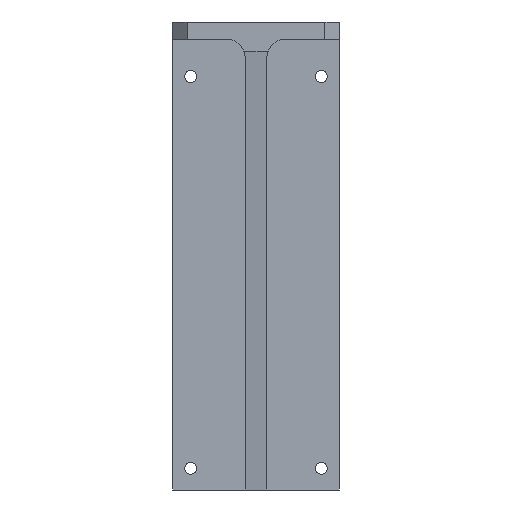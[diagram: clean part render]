
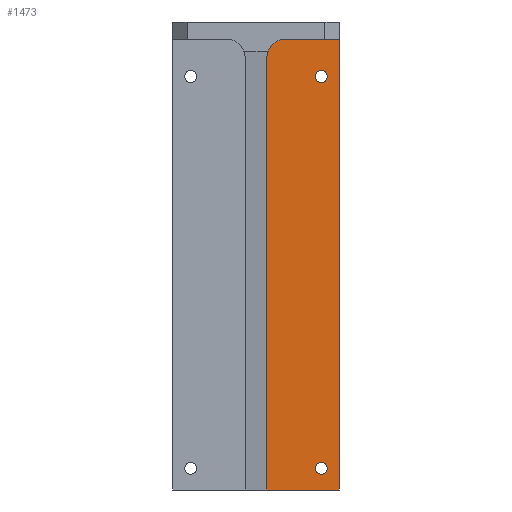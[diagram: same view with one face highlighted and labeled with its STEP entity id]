
A CAD part, left-side view. The second image highlights one B-rep face of the part: STEP entity #1473.
In plain terms, the highlighted planar face has unit normal (-1, 0, 0).
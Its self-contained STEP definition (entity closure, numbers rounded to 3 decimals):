
#47 = CARTESIAN_POINT ( 'NONE',  ( 16., 14.8, -4.7 ) ) ;
#57 = CARTESIAN_POINT ( 'NONE',  ( 16., 5., -121.35 ) ) ;
#72 = VERTEX_POINT ( 'NONE', #47 ) ;
#88 = VERTEX_POINT ( 'NONE', #57 ) ;
#91 = CARTESIAN_POINT ( 'NONE',  ( 16., 20., -4.7 ) ) ;
#124 = DIRECTION ( 'NONE',  ( 1., 0., 0. ) ) ;
#197 = AXIS2_PLACEMENT_3D ( 'NONE', #1772, #918, #1096 ) ;
#228 = DIRECTION ( 'NONE',  ( 0., 0., -1. ) ) ;
#237 = CARTESIAN_POINT ( 'NONE',  ( 16., 5., -123. ) ) ;
#247 = LINE ( 'NONE', #609, #1445 ) ;
#250 = DIRECTION ( 'NONE',  ( 0., 0., -1. ) ) ;
#255 = EDGE_LOOP ( 'NONE', ( #514, #516 ) ) ;
#262 = CARTESIAN_POINT ( 'NONE',  ( 16., 0., -129. ) ) ;
#305 = CARTESIAN_POINT ( 'NONE',  ( 16., 20., -129. ) ) ;
#309 = VERTEX_POINT ( 'NONE', #976 ) ;
#311 = PLANE ( 'NONE',  #707 ) ;
#318 = AXIS2_PLACEMENT_3D ( 'NONE', #1675, #1717, #250 ) ;
#338 = EDGE_CURVE ( 'NONE', #72, #854, #1666, .T. ) ;
#426 = VERTEX_POINT ( 'NONE', #1241 ) ;
#460 = VERTEX_POINT ( 'NONE', #1046 ) ;
#485 = EDGE_CURVE ( 'NONE', #460, #309, #1768, .T. ) ;
#486 = DIRECTION ( 'NONE',  ( 0., 0., -1. ) ) ;
#514 = ORIENTED_EDGE ( 'NONE', *, *, #1294, .T. ) ;
#516 = ORIENTED_EDGE ( 'NONE', *, *, #998, .T. ) ;
#562 = ORIENTED_EDGE ( 'NONE', *, *, #565, .T. ) ;
#565 = EDGE_CURVE ( 'NONE', #631, #426, #1794, .T. ) ;
#578 = ORIENTED_EDGE ( 'NONE', *, *, #1349, .T. ) ;
#593 = ORIENTED_EDGE ( 'NONE', *, *, #338, .F. ) ;
#600 = ORIENTED_EDGE ( 'NONE', *, *, #1668, .T. ) ;
#607 = CARTESIAN_POINT ( 'NONE',  ( 16., 5., -124.65 ) ) ;
#609 = CARTESIAN_POINT ( 'NONE',  ( 16., 20., -129. ) ) ;
#613 = ORIENTED_EDGE ( 'NONE', *, *, #485, .F. ) ;
#619 = ORIENTED_EDGE ( 'NONE', *, *, #1742, .T. ) ;
#628 = ORIENTED_EDGE ( 'NONE', *, *, #1750, .T. ) ;
#631 = VERTEX_POINT ( 'NONE', #1148 ) ;
#635 = DIRECTION ( 'NONE',  ( 0., -1., 0. ) ) ;
#707 = AXIS2_PLACEMENT_3D ( 'NONE', #305, #1684, #486 ) ;
#756 = AXIS2_PLACEMENT_3D ( 'NONE', #1144, #1286, #1224 ) ;
#847 = VERTEX_POINT ( 'NONE', #607 ) ;
#849 = VERTEX_POINT ( 'NONE', #1136 ) ;
#854 = VERTEX_POINT ( 'NONE', #1172 ) ;
#859 = EDGE_LOOP ( 'NONE', ( #562, #578 ) ) ;
#886 = FACE_OUTER_BOUND ( 'NONE', #978, .T. ) ;
#918 = DIRECTION ( 'NONE',  ( -1., 0., 0. ) ) ;
#976 = CARTESIAN_POINT ( 'NONE',  ( 16., 20., -9.9 ) ) ;
#978 = EDGE_LOOP ( 'NONE', ( #593, #600, #613, #619, #628 ) ) ;
#998 = EDGE_CURVE ( 'NONE', #88, #847, #1443, .T. ) ;
#1046 = CARTESIAN_POINT ( 'NONE',  ( 16., 20., -129. ) ) ;
#1096 = DIRECTION ( 'NONE',  ( 0., 0., -1. ) ) ;
#1120 = DIRECTION ( 'NONE',  ( 0., -1., 0. ) ) ;
#1124 = DIRECTION ( 'NONE',  ( 0., 0., -1. ) ) ;
#1129 = AXIS2_PLACEMENT_3D ( 'NONE', #1388, #1648, #1124 ) ;
#1136 = CARTESIAN_POINT ( 'NONE',  ( 16., 0., -129. ) ) ;
#1144 = CARTESIAN_POINT ( 'NONE',  ( 16., 5., -15. ) ) ;
#1148 = CARTESIAN_POINT ( 'NONE',  ( 16., 5., -16.65 ) ) ;
#1162 = CARTESIAN_POINT ( 'NONE',  ( 16., 20., -129. ) ) ;
#1172 = CARTESIAN_POINT ( 'NONE',  ( 16., 0., -4.7 ) ) ;
#1221 = LINE ( 'NONE', #262, #1358 ) ;
#1224 = DIRECTION ( 'NONE',  ( 0., 0., -1. ) ) ;
#1239 = DIRECTION ( 'NONE',  ( 0., 0., 1. ) ) ;
#1241 = CARTESIAN_POINT ( 'NONE',  ( 16., 5., -13.35 ) ) ;
#1286 = DIRECTION ( 'NONE',  ( 1., 0., 0. ) ) ;
#1294 = EDGE_CURVE ( 'NONE', #847, #88, #1588, .T. ) ;
#1349 = EDGE_CURVE ( 'NONE', #426, #631, #1396, .T. ) ;
#1358 = VECTOR ( 'NONE', #1691, 1000. ) ;
#1388 = CARTESIAN_POINT ( 'NONE',  ( 16., 5., -123. ) ) ;
#1396 = CIRCLE ( 'NONE', #318, 1.65 ) ;
#1422 = FACE_BOUND ( 'NONE', #255, .T. ) ;
#1443 = CIRCLE ( 'NONE', #1485, 1.65 ) ;
#1445 = VECTOR ( 'NONE', #635, 1000. ) ;
#1473 = ADVANCED_FACE ( 'NONE', ( #1422, #1613, #886 ), #311, .F. ) ;
#1485 = AXIS2_PLACEMENT_3D ( 'NONE', #237, #124, #228 ) ;
#1548 = CIRCLE ( 'NONE', #197, 5.2 ) ;
#1588 = CIRCLE ( 'NONE', #1129, 1.65 ) ;
#1613 = FACE_BOUND ( 'NONE', #859, .T. ) ;
#1648 = DIRECTION ( 'NONE',  ( 1., 0., 0. ) ) ;
#1666 = LINE ( 'NONE', #91, #1670 ) ;
#1668 = EDGE_CURVE ( 'NONE', #72, #309, #1548, .T. ) ;
#1670 = VECTOR ( 'NONE', #1120, 1000. ) ;
#1675 = CARTESIAN_POINT ( 'NONE',  ( 16., 5., -15. ) ) ;
#1684 = DIRECTION ( 'NONE',  ( 1., 0., 0. ) ) ;
#1691 = DIRECTION ( 'NONE',  ( 0., 0., 1. ) ) ;
#1717 = DIRECTION ( 'NONE',  ( 1., 0., 0. ) ) ;
#1742 = EDGE_CURVE ( 'NONE', #460, #849, #247, .T. ) ;
#1750 = EDGE_CURVE ( 'NONE', #849, #854, #1221, .T. ) ;
#1768 = LINE ( 'NONE', #1162, #1774 ) ;
#1772 = CARTESIAN_POINT ( 'NONE',  ( 16., 14.8, -9.9 ) ) ;
#1774 = VECTOR ( 'NONE', #1239, 1000. ) ;
#1794 = CIRCLE ( 'NONE', #756, 1.65 ) ;
